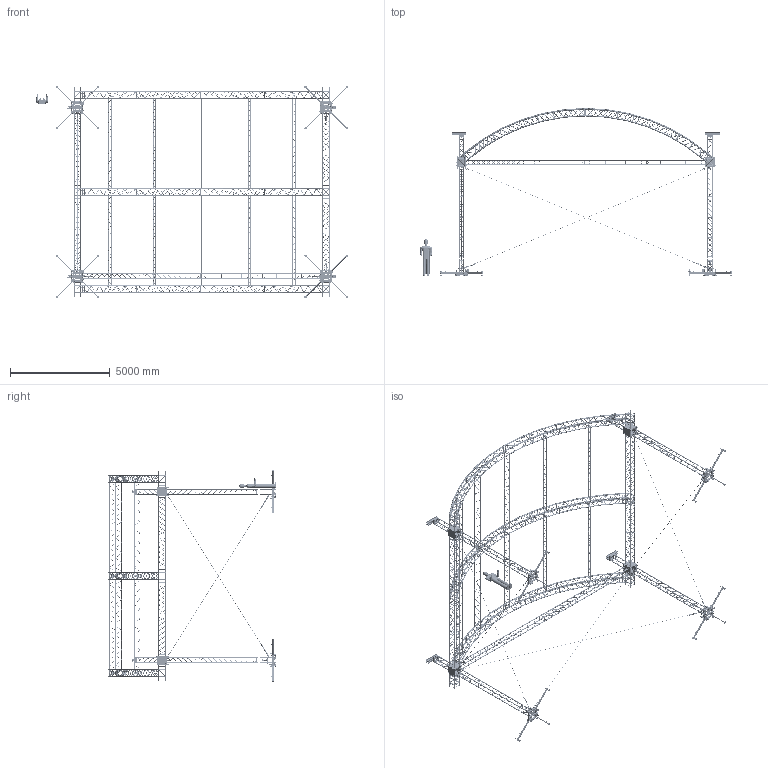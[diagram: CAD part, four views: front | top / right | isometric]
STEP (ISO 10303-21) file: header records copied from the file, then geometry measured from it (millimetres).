
FILE_DESCRIPTION (( 'STEP AP214' ), '1' );
FILE_NAME ('00622-0E2-3D-170423.STEP', '2023-04-18T06:12:20', ( '' ), ( '' ), 'SwSTEP 2.0', 'SolidWorks 2023', '' );
FILE_SCHEMA (( 'AUTOMOTIVE_DESIGN' ));
Length unit declared in the file: millimetre
Products named in the file (103): 02505-101_REPB_Tube 90 x 50 ep 4; demi_moyeu_male_d50_ht45; 02505-1004; SC300_SC303018; 02505-6E1; 02505-10E1; Vis TETE H_VIS H M20X90; st290-alu; 06511-101; 02505-802; Ecrou H_ECROU M18; 06511-CABLERIE_06511-CABL-1T6-13.05; Rondelle M8, NF E 25-514; 06511-102; 02505-501_REPC; 06511-1se1_06511-1se2; SC300_SC30060; 02505-001; SC390_SC 39200; 16006_2rs; 02505-2E1; 02505-0E1_TL290-6.6m-pattes droites; 02505-1E1; 02505-501; 02505-201_REPA_Tube 40 x 80 ep 3; 02505-8SE1; 02505-801REPA_Corniere egale 050x5; 02505-801REPD; 02505-101_REPF_00402-003; CIRCLIPE30; SC390_SC 391595; 02505-201_REPD; Rondelle plate_RONDELLE M Ø12; 02505-801REPE; 06511-1se1; 02505-801REPC_Corniere egale 050x5; VIS CHC_VIS CHC M10x20; 02505-504; 02505-801REPB_Corniere egale 050x5; manchon_fem_50x2_manchon_recoupe_lg45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
Assembly tree (479 placements, depth 6):
  00622-0E2-3D-170423
    02505-0E1_TL290-6.6m-pattes droites
      02505-1E1
        02505-101
          02505-101_REPA_Tube 90 x 50 ep 4
          02505-101_REPB_Tube 90 x 50 ep 4  x2
          02505-101_REPC_Tube 90 x 50 ep 4  x4
          02505-101_REPD  x4
          02505-101_REPE  x4
          02505-101_REPF_00402-003  x4
          02505-101_REPH_Tube 90 x 50 ep 4  x4
          02505-101_REPI  x4
          Ecrou H_ECROU M18  x5
          ecrou M20x5 rond  x4
          02505-101_REPj_Tube 60 x 60 ep 4
        Roulette pivotante TENTE_ROULETTE PIVOTANTE Ø80  x4
        02505-6E1  x4
          02505-601
            02505-601_REPA
            02505-601_REPC
            02505-601_REPB
            Rondelle M8, NF E 25-514
        02505-10E1  x5
          02505-1004
          02505-1003
          02505-1002
          02505-1001
      SC300_SC30060
      SC300_SC30300  x2
      02505-2E1  x4
        02505-201
          02505-201_REPA_Tube 40 x 80 ep 3
          02505-001
          02505-201_REP C
          02505-201_REPD
        02505-6E1
          02505-601
            02505-601_REPA
            02505-601_REPC
            02505-601_REPB
            Rondelle M8, NF E 25-514
        Rondelle plate_RONDELLE M Ø20
        02505-604
          02505-604_REPA
          ecrou M20x5 rond
      02505-8E1
        02505-801
          02505-801REPA_Corniere egale 050x5  x8
          02505-801REPB_Corniere egale 050x5  x4
          02505-801REPC_Corniere egale 050x5  x4
          02505-801REPD  x32
          02505-801REPE  x4
        02505-802  x4
        VIS CHC_VIS CHC M8x25  x36
        Ecrou Nylstop_ECROU H FR M8  x36
        demi_moyeu_male_d50_ht45  x16
        VIS CHC_VIS CHC M10x20  x16
        02505-8SE1  x16
          02505-804
          02505-805
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Bounding box: 15663.28 x 8424.87 x 10664.41 mm (x, y, z)
Volume: 932257286.2 mm3; surface area: 255461106.9 mm2
Topology: 3281 solids, 3513 shells, 58451 faces, 136774 edges, 83994 vertices
Faces by surface type: cylinder 20974, plane 16447, cone 13066, torus 4650, bspline 3182, sphere 132
Entity records: 260615 total; most frequent: CARTESIAN_POINT 142040, ORIENTED_EDGE 20658, DIRECTION 18123, EDGE_CURVE 10635, AXIS2_PLACEMENT_3D 7050, VERTEX_POINT 6679, EDGE_LOOP 4952, ADVANCED_FACE 4179
